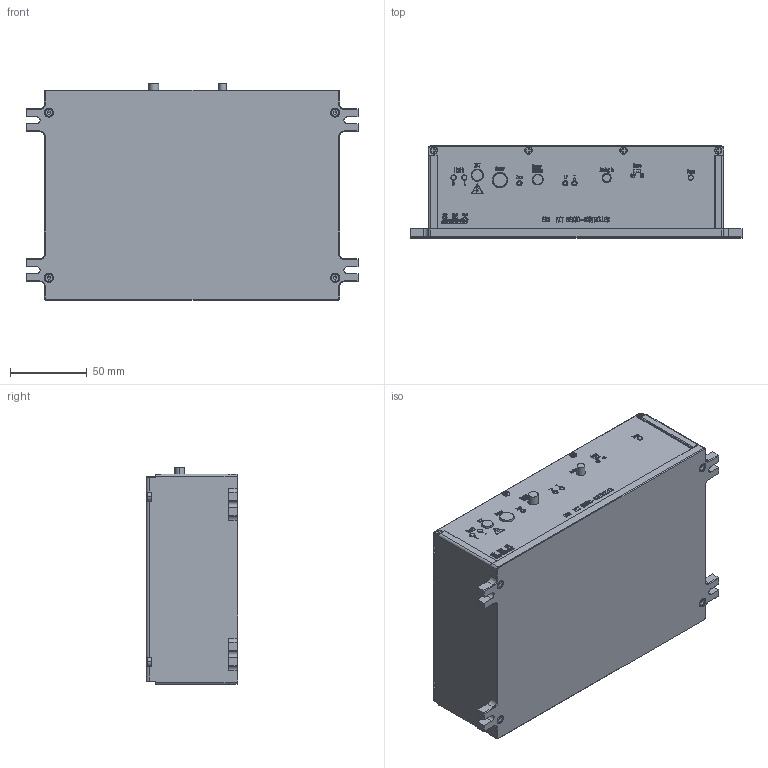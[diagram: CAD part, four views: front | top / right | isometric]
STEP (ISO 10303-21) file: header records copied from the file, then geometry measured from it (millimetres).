
FILE_DESCRIPTION (( 'STEP AP203' ), '1' );
FILE_NAME ('E52精简版电源外3D模型20.03.19.STEP', '2020-03-19T07:41:46', ( 'admin' ), ( '' ), 'SwSTEP 2.0', 'SolidWorks 2016', '' );
FILE_SCHEMA (( 'CONFIG_CONTROL_DESIGN' ));
Products named in the file (1): E52精简版电源外3D模型20.03.19
Bounding box: 217 x 60 x 141.75 mm (x, y, z)
Volume: 1558994.3 mm3; surface area: 101029.3 mm2
Topology: 22 solids, 22 shells, 3579 faces, 10086 edges, 6766 vertices
Faces by surface type: plane 2245, bspline 1064, cylinder 170, cone 84, torus 16
Entity records: 185845 total; most frequent: CARTESIAN_POINT 103793, ORIENTED_EDGE 20124, DIRECTION 11429, EDGE_CURVE 10062, VERTEX_POINT 6766, VECTOR 5827, LINE 5827, B_SPLINE_CURVE_WITH_KNOTS 3950
